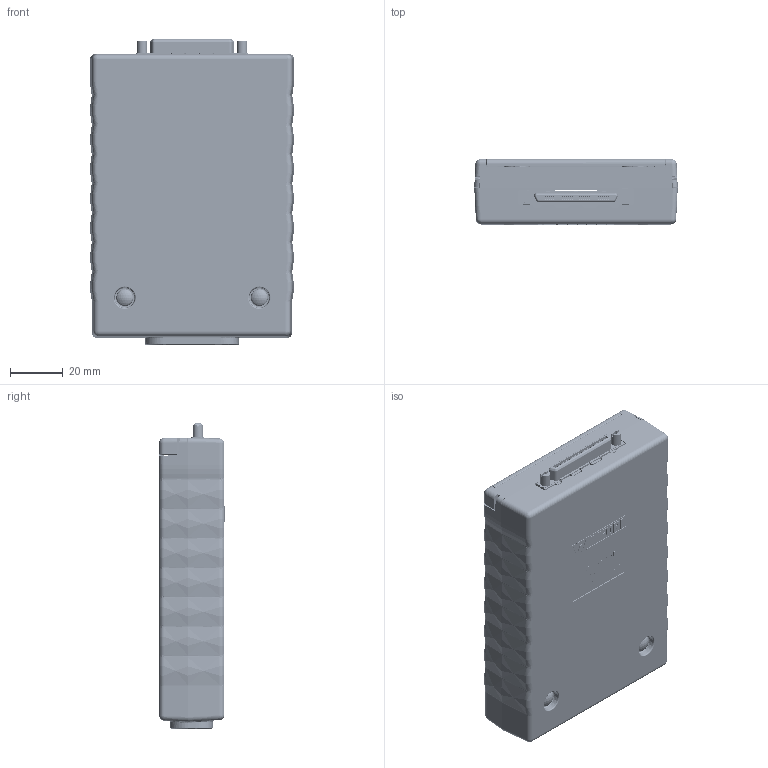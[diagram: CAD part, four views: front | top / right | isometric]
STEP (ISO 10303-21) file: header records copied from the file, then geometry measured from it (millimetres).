
FILE_DESCRIPTION (( 'STEP AP214' ), '1' );
FILE_NAME ('brkeavh68f-r_rev_a.step', '2026-06-19T19:04:32', ( '' ), ( '' ), 'SwSTEP 2.0', 'SolidWorks 2018', '' );
FILE_SCHEMA (( 'AUTOMOTIVE_DESIGN' ));
Length unit declared in the file: inch
Products named in the file (11): brkeavh68f-r_pcb; three_position_angled_green_screw_terminal; 3.5 x 5 Nylon 6 Snap Rivet; VCHDI Connector Right Angle_clipped; brkeavh68f-r_rev_a; brkeavh68f-r_label; Z_BRKExVH68F-BASE; BRKExVH68F_cover; Jack Screw; Enclosure_Screw Ph 4-40 x .75_0.75; two_position_angled_green_screw_terminal
Assembly tree (35 placements, depth 2):
  brkeavh68f-r_rev_a
    Z_BRKExVH68F-BASE
    brkeavh68f-r_pcb
    VCHDI Connector Right Angle_clipped
    Jack Screw  x2
    two_position_angled_green_screw_terminal  x3
    three_position_angled_green_screw_terminal  x21
    3.5 x 5 Nylon 6 Snap Rivet  x2
    BRKExVH68F_cover
    Enclosure_Screw Ph 4-40 x .75_0.75  x2
    brkeavh68f-r_label
Bounding box: 76.89 x 24.8 x 115.26 mm (x, y, z)
Volume: 78119.7 mm3; surface area: 89038.8 mm2
Topology: 86 solids, 113 shells, 16658 faces, 43611 edges, 27842 vertices
Faces by surface type: plane 9829, cylinder 2714, bspline 2702, torus 715, cone 404, sphere 294
Entity records: 496814 total; most frequent: CARTESIAN_POINT 167866, ORIENTED_EDGE 52736, DIRECTION 41065, EDGE_CURVE 26368, VERTEX_POINT 16859, VECTOR 16309, LINE 16309, AXIS2_PLACEMENT_3D 12378
